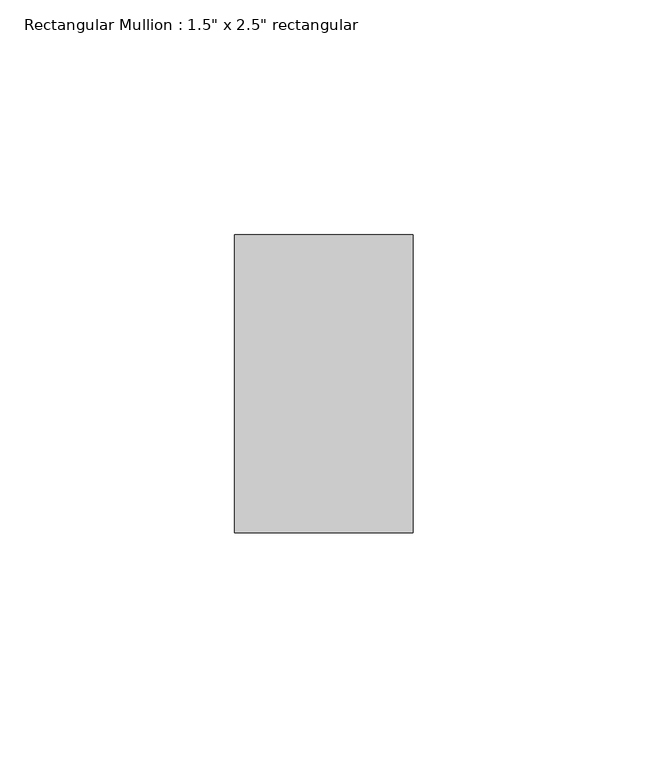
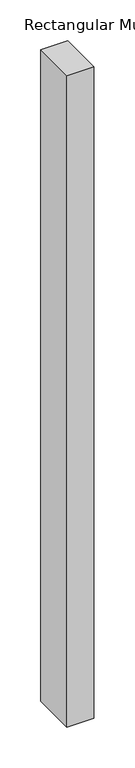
"""IFC4 building model written with IfcOpenShell, lengths in millimetres: member geometry."""

from ifc_helpers import new_model, si_unit, frame, origin, place, context, project, spatial, polyline, outline, extrude, source, transform, mapped, element, save


def member_d3104823(model_context):
    return source(origin(), model_context, "Body", "SweptSolid", [
        extrude(outline(polyline([(19.05, 31.75), (19.05, -31.75), (-19.05, -31.75), (-19.05, 31.75), (19.05, 31.75)])), frame((0.0, 0.0, -971.55), z_axis=(0.0, 0.0, 1.0), x_axis=(1.0, 0.0, 0.0)), (0.0, 0.0, 1.0), 971.55),
    ])


if __name__ == "__main__":
    model = new_model("IFC4")
    model_context = context("Model", 3, world=origin())
    ifc_project = project(units=[si_unit("LENGTHUNIT", "METRE", prefix="MILLI")], contexts=[model_context])
    site = spatial("IfcSite", under=ifc_project)
    building = spatial("IfcBuilding", under=site)
    placement = place(None, origin())
    member_shape = member_d3104823(model_context)
    element("IfcMember", 1, ObjectType="Rectangular Mullion : 1.5\" x 2.5\" rectangular", at=placement, inside=building, context=model_context, shape_type="MappedRepresentation", body=[
        mapped(member_shape, transform((0.0, 0.0, 0.0), x_axis=(1.0, 0.0, 0.0), y_axis=(0.0, 1.0, 0.0), z_axis=(0.0, 0.0, 1.0))),
    ])
    save(model, "model.ifc")
